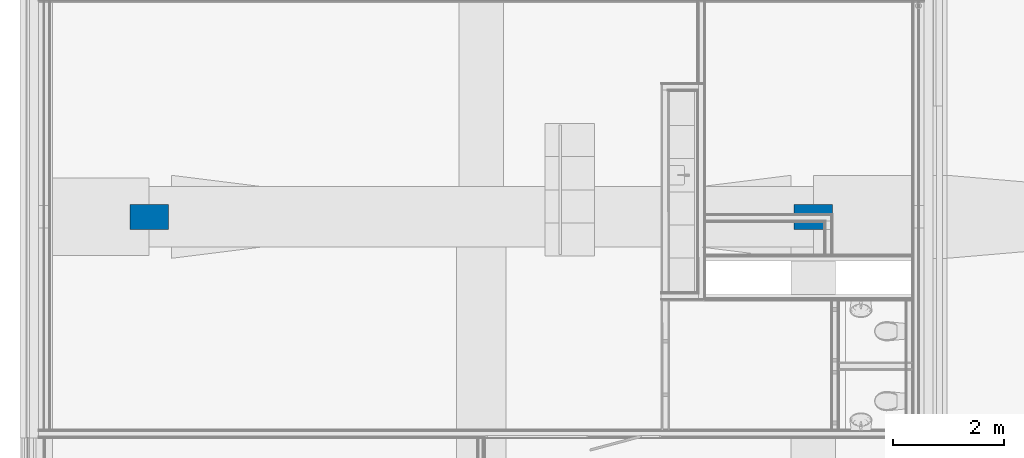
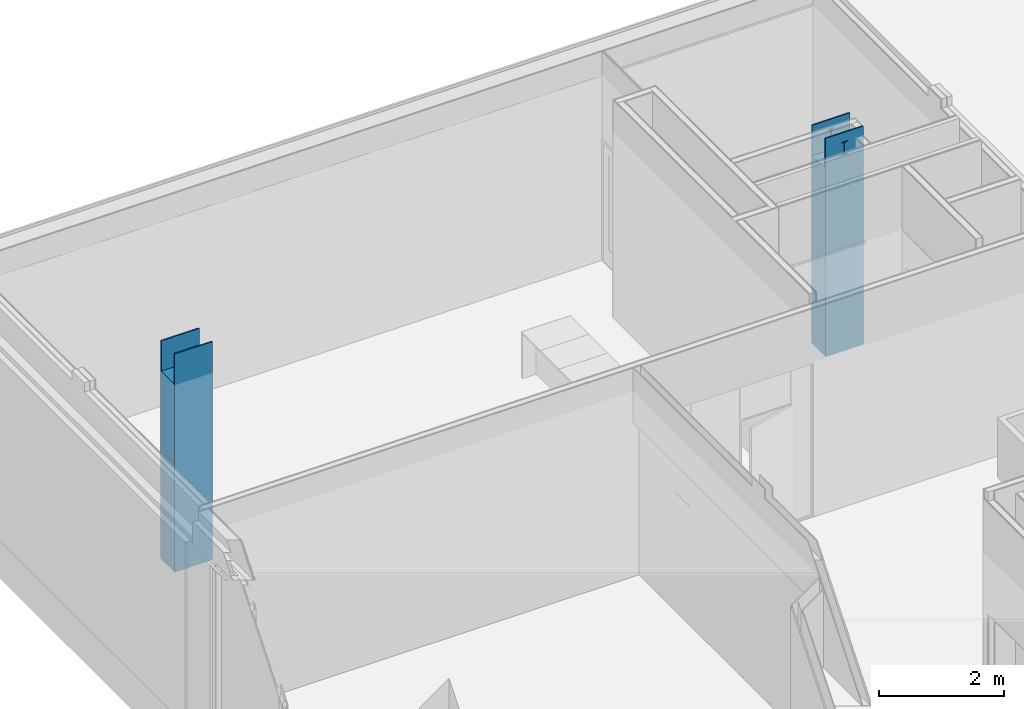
# One storey, part 8 of 94: 2 columns.
"""IFC2X3 building model written with IfcOpenShell, lengths in millimetres."""

from ifc_helpers import new_model, entity, si_unit, converted_unit, derived_unit, money_unit, direction, frame, origin_with_axes, place, context, subcontext, project, spatial, faceted_brep, material, type_object, element, save


model = new_model("IFC2X3")

# Units and contexts
model_context = context("Model", 3, precision=0.01, world=origin_with_axes(), true_north=direction((0.0, 1.0)))
body_context = subcontext(model_context, "Body", "Model", "MODEL_VIEW")
ifc_project = project(units=[si_unit("LENGTHUNIT", "METRE", prefix="MILLI"), si_unit("AREAUNIT", "SQUARE_METRE"), si_unit("VOLUMEUNIT", "CUBIC_METRE"), converted_unit("PLANEANGLEUNIT", "DEGREE", entity("IfcPlaneAngleMeasure", 0.0174532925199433), si_unit("PLANEANGLEUNIT", "RADIAN"), dimensions=[0, 0, 0, 0, 0, 0, 0]), money_unit("EUR"), converted_unit("TIMEUNIT", "Year", entity("IfcTimeMeasure", 31557600.0), si_unit("TIMEUNIT", "SECOND"), dimensions=[0, 0, 1, 0, 0, 0, 0]), si_unit("MASSUNIT", "GRAM", prefix="KILO"), si_unit("THERMODYNAMICTEMPERATUREUNIT", "DEGREE_CELSIUS"), si_unit("LUMINOUSINTENSITYUNIT", "LUMEN"), si_unit("ENERGYUNIT", "JOULE", prefix="MEGA"), derived_unit("THERMALCONDUCTANCEUNIT", [(si_unit("POWERUNIT", "WATT"), 1), (si_unit("LENGTHUNIT", "METRE"), -1), (si_unit("THERMODYNAMICTEMPERATUREUNIT", "KELVIN"), -1)]), derived_unit("SPECIFICHEATCAPACITYUNIT", [(si_unit("ENERGYUNIT", "JOULE"), 1), (si_unit("MASSUNIT", "GRAM", prefix="KILO"), -1), (si_unit("THERMODYNAMICTEMPERATUREUNIT", "KELVIN"), -1)]), derived_unit("MASSDENSITYUNIT", [(si_unit("MASSUNIT", "GRAM", prefix="KILO"), 1), (si_unit("VOLUMEUNIT", "CUBIC_METRE"), -1)])], contexts=[model_context])

# Site, building, storey
site_placement = place(None, origin_with_axes())
site = spatial("IfcSite", under=ifc_project, at=site_placement, Name="<site naam>", CompositionType="ELEMENT")
building_placement = place(site_placement, origin_with_axes())
building = spatial("IfcBuilding", under=site, at=building_placement, Name="<Naam gebouw>", CompositionType="ELEMENT")
storey_placement = place(building_placement, frame((0.0, 0.0, 4250.0), z_axis=(0.0, 0.0, 1.0), x_axis=(1.0, 0.0, 0.0)))
storey = spatial("IfcBuildingStorey", under=building, at=storey_placement, Name="01 1e verdieping", CompositionType="ELEMENT", Elevation=4250.0)

# Columns
ifc_material = material(Name="betonblok C")
column_type = type_object("IfcColumnType", Name="betonblok C 450 x 700", PredefinedType="COLUMN")
column_1_placement = place(storey_placement, frame((-9999.999999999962, 16000.00000000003, 0.0), z_axis=(0.0, 0.0, 1.0), x_axis=(0.0, 1.0, 0.0)))
element("IfcColumn", 1, at=column_1_placement, inside=storey, type_object=column_type, material=ifc_material, Name="28_Kolom_betonblok", ObjectType="COLUMN", context=body_context, shape_type="Brep", body=[
    faceted_brep([(225.0000000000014, 349.9999999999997, 4250.0), (199.9999999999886, 349.9999999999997, 4250.0), (199.9999999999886, -349.9999999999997, 4250.0), (225.0000000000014, -349.9999999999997, 4250.0), (-200.0000000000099, 349.9999999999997, 3659.999999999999), (199.9999999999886, 349.9999999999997, 3659.999999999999), (225.0000000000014, 349.9999999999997, 0.0), (-224.9999999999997, 349.9999999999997, 0.0), (-224.9999999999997, 349.9999999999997, 4250.0), (-200.0000000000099, 349.9999999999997, 4250.0), (199.9999999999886, -349.9999999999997, 3659.999999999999), (-200.0000000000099, -349.9999999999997, 3659.999999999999), (-200.0000000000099, -349.9999999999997, 4250.0), (-224.9999999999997, -349.9999999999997, 4250.0), (-224.9999999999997, -349.9999999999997, 0.0), (225.0000000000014, -349.9999999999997, 0.0)], [[[0, 1, 2, 3]], [[4, 5, 1, 0, 6, 7, 8, 9]], [[5, 10, 2, 1]], [[10, 11, 12, 13, 14, 15, 3, 2]], [[0, 3, 15, 6]], [[4, 11, 10, 5]], [[6, 15, 14, 7]], [[13, 8, 7, 14]], [[13, 12, 9, 8]], [[4, 9, 12, 11]]]),
])
column_2_placement = place(storey_placement, frame((2000.000000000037, 16000.00000000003, 0.0), z_axis=(0.0, 0.0, 1.0), x_axis=(0.0, 1.0, 0.0)))
element("IfcColumn", 2, at=column_2_placement, inside=storey, type_object=column_type, material=ifc_material, Name="28_Kolom_betonblok", ObjectType="COLUMN", context=body_context, shape_type="Brep", body=[
    faceted_brep([(-224.9999999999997, -349.9999999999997, 4250.0), (-224.9999999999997, 349.9999999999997, 4250.0), (-224.9999999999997, 349.9999999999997, 0.0), (-224.9999999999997, -349.9999999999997, 0.0), (-224.9999999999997, 4.699803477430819, 4055.900000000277), (-224.9999999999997, 56.50000294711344, 4055.900000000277), (-225.0000000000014, 56.50004253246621, 4070.000000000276), (-225.0000000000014, -56.50043557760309, 4070.000000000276), (-225.0000000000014, -56.50039599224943, 4055.900000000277), (-225.0000000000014, -4.700196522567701, 4055.900000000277), (-225.0000000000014, -4.700196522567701, 3824.099787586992), (-225.0000000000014, -56.50039599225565, 3824.09978758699), (-225.0000000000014, -56.50043557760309, 3809.999755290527), (-225.0000000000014, 56.50004253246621, 3809.999755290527), (-225.0000000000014, 56.50000294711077, 3824.09978758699), (-225.0000000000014, 4.699803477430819, 3824.099787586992), (-200.0000000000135, -349.9999999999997, 4250.0), (-200.0000000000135, 349.9999999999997, 4250.0), (-200.0000000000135, 349.9999999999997, 3659.999999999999), (199.9999999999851, 350.0000000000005, 3659.999999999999), (199.9999999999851, 349.9999999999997, 4250.0), (225.0000000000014, 349.9999999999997, 4250.0), (225.0000000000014, 349.9999999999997, 0.0), (225.0000000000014, -349.9999999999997, 0.0), (199.9999999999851, -349.9999999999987, 3659.999999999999), (-200.0000000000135, -349.9999999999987, 3659.999999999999), (225.0000000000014, -349.9999999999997, 4250.0), (199.9999999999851, -349.9999999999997, 4250.0), (-200.0000000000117, 4.699803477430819, 4055.900000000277), (-200.0000000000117, 56.50000294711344, 4055.900000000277), (-200.0000000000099, 56.50004253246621, 4070.000000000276), (-200.0000000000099, -56.50043557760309, 4070.000000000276), (-200.0000000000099, -56.50039599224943, 4055.900000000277), (-200.0000000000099, -4.700196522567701, 4055.900000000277), (-200.0000000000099, -4.700196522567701, 3824.099787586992), (-200.0000000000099, -56.50039599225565, 3824.09978758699), (-200.0000000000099, -56.50043557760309, 3809.999755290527), (-200.0000000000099, 56.50004253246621, 3809.999755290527), (-200.0000000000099, 56.50000294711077, 3824.09978758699), (-200.0000000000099, 4.699803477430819, 3824.099787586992), (199.9999999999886, 4.699803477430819, 4055.900000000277), (199.9999999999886, 56.50000294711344, 4055.900000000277), (199.9999999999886, 56.50004253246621, 4070.000000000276), (199.9999999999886, -56.50043557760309, 4070.000000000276), (199.9999999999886, -56.50039599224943, 4055.900000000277), (199.9999999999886, -4.700196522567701, 4055.900000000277), (199.9999999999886, -4.700196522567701, 3824.099787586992), (199.9999999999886, -56.50039599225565, 3824.09978758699), (199.9999999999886, -56.50043557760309, 3809.999755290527), (199.9999999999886, 56.50004253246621, 3809.999755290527), (199.9999999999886, 56.50000294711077, 3824.09978758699), (199.9999999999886, 4.699803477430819, 3824.099787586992), (225.0000000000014, -4.700196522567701, 3824.099787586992), (225.0000000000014, -4.700196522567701, 4055.900000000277), (225.0000000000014, -56.50039599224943, 4055.900000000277), (225.0000000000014, -56.50043557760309, 4070.000000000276), (225.0000000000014, 56.50004253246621, 4070.000000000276), (225.0000000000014, 56.50000294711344, 4055.900000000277), (225.0000000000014, 4.699803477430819, 4055.900000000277), (225.0000000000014, 4.699803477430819, 3824.099787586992), (225.0000000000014, 56.50000294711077, 3824.09978758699), (225.0000000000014, 56.50004253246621, 3809.999755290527), (225.0000000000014, -56.50043557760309, 3809.999755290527), (225.0000000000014, -56.50039599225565, 3824.09978758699)], [[[0, 1, 2, 3], [4, 5, 6, 7, 8, 9, 10, 11, 12, 13, 14, 15]], [[0, 16, 17, 1]], [[18, 19, 20, 21, 22, 2, 1, 17]], [[22, 23, 3, 2]], [[24, 25, 16, 0, 3, 23, 26, 27]], [[4, 28, 29, 5]], [[5, 29, 30, 6]], [[6, 30, 31, 7]], [[7, 31, 32, 8]], [[8, 32, 33, 9]], [[9, 33, 34, 10]], [[10, 34, 35, 11]], [[11, 35, 36, 12]], [[12, 36, 37, 13]], [[13, 37, 38, 14]], [[14, 38, 39, 15]], [[15, 39, 28, 4]], [[18, 17, 16, 25], [34, 33, 32, 31, 30, 29, 28, 39, 38, 37, 36, 35]], [[18, 25, 24, 19]], [[19, 24, 27, 20], [40, 41, 42, 43, 44, 45, 46, 47, 48, 49, 50, 51]], [[21, 20, 27, 26]], [[21, 26, 23, 22], [52, 53, 54, 55, 56, 57, 58, 59, 60, 61, 62, 63]], [[40, 58, 57, 41]], [[41, 57, 56, 42]], [[42, 56, 55, 43]], [[43, 55, 54, 44]], [[44, 54, 53, 45]], [[45, 53, 52, 46]], [[46, 52, 63, 47]], [[47, 63, 62, 48]], [[48, 62, 61, 49]], [[49, 61, 60, 50]], [[50, 60, 59, 51]], [[51, 59, 58, 40]]]),
])

save(model, "model.ifc")
